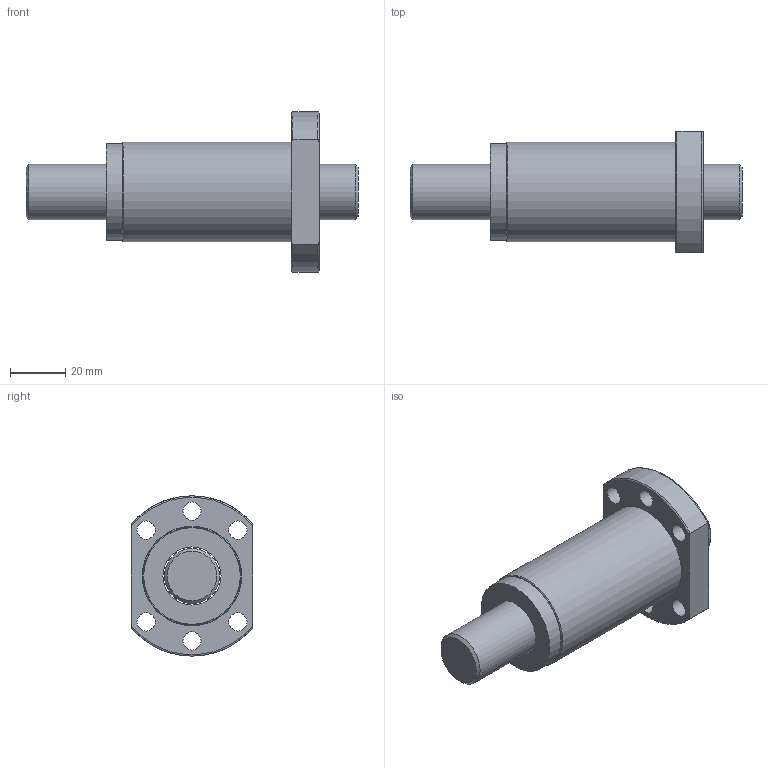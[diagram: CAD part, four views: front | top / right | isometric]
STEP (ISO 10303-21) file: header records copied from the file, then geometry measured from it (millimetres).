
FILE_DESCRIPTION(/* description */ (''),/* implementation_level */ '2;1');
FILE_NAME(/* name */ 'SFS2020-2.8',/* time_stamp */ '2007-10-26T10:54:55+08:00',/* author */ (''),/* organization */ (''),/* preprocessor_version */ 'ST-DEVELOPER v9',/* originating_system */ 'UGS - NX 3.0',/* authorisation */ '');
FILE_SCHEMA (('CONFIG_CONTROL_DESIGN'));
Length unit declared in the file: millimetre
Products named in the file (1): jaso37B0hu6y
Bounding box: 120.15 x 44 x 58 mm (x, y, z)
Volume: 99193.6 mm3; surface area: 30912.6 mm2
Topology: 4 solids, 4 shells, 35 faces, 78 edges, 53 vertices
Faces by surface type: cylinder 16, plane 12, torus 5, cone 2
Full cylindrical faces by diameter (mm): 6.6 x6, 20 x1, 21 x3, 35 x2, 36 x2
Entity records: 1100 total; most frequent: CARTESIAN_POINT 282, DIRECTION 158, ORIENTED_EDGE 110, AXIS2_PLACEMENT_3D 75, EDGE_LOOP 72, EDGE_CURVE 55, FACE_BOUND 52, VERTEX_POINT 47
